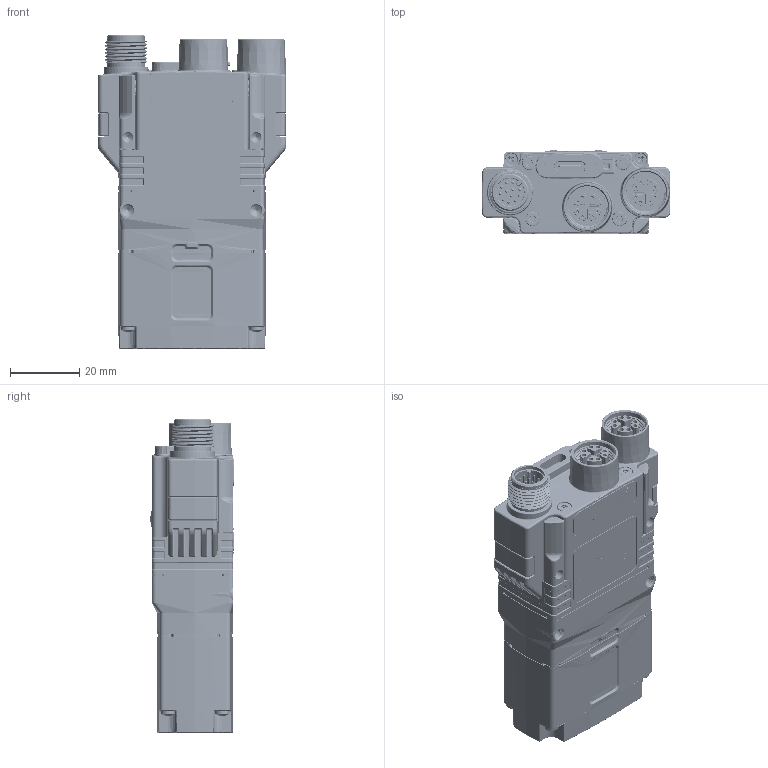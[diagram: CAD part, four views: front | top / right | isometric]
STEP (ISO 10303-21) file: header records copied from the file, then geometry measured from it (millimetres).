
FILE_DESCRIPTION (( 'STEP AP203' ), '1' );
FILE_NAME ('DM_IS28XX_ECAT_16mm_Front_Cover.STEP', '2024-05-03T09:40:22', ( '' ), ( '' ), 'SwSTEP 2.0', 'SolidWorks 2023', '' );
FILE_SCHEMA (( 'CONFIG_CONTROL_DESIGN' ));
Length unit declared in the file: millimetre
Products named in the file (1): DM_IS28XX_ECAT_16mm_Front_Cover
Bounding box: 54.41 x 24.02 x 90.31 mm (x, y, z)
Volume: 78508.5 mm3; surface area: 25118.4 mm2
Topology: 2 solids, 9 shells, 12475 faces, 32294 edges, 20924 vertices
Faces by surface type: plane 7371, bspline 2464, cylinder 1850, cone 457, torus 269, sphere 64
Full cylindrical faces by diameter (mm): 0.24 x1, 0.432 x1, 1.5 x2, 1.75 x2, 2 x4, 3.35 x4
Entity records: 485391 total; most frequent: CARTESIAN_POINT 200161, ORIENTED_EDGE 64294, DIRECTION 49577, EDGE_CURVE 32147, LINE 21525, VECTOR 21525, VERTEX_POINT 20903, AXIS2_PLACEMENT_3D 14026
